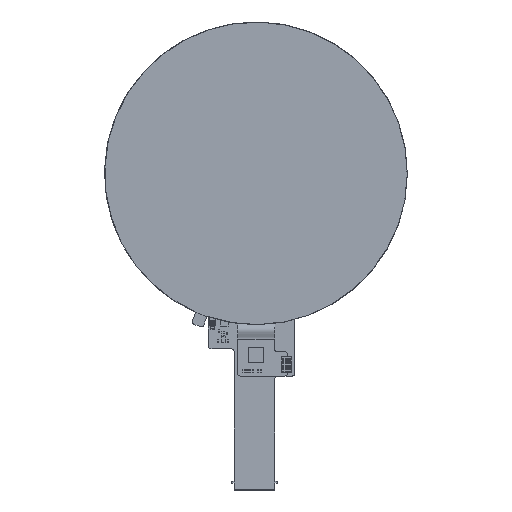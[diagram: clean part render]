
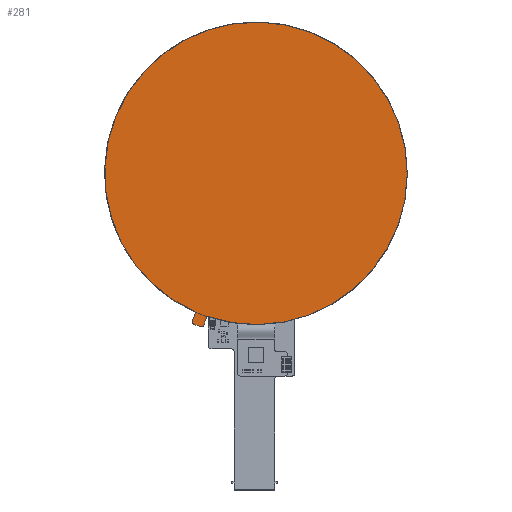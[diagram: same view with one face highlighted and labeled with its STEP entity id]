
A CAD part, top view. The second image highlights one B-rep face of the part: STEP entity #281.
In plain terms, the highlighted planar face has unit normal (0, 0, 1).
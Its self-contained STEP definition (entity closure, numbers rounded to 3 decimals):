
#90 = VERTEX_POINT('',#91);
#91 = CARTESIAN_POINT('',(-18.6,-54.356,3.23));
#97 = EDGE_CURVE('',#90,#98,#100,.T.);
#98 = VERTEX_POINT('',#99);
#99 = CARTESIAN_POINT('',(-19.901,-57.712,3.23));
#100 = LINE('',#101,#102);
#101 = CARTESIAN_POINT('',(-18.6,-54.356,3.23));
#102 = VECTOR('',#103,1.);
#103 = DIRECTION('',(-0.361,-0.932,0.));
#121 = VERTEX_POINT('',#122);
#122 = CARTESIAN_POINT('',(-21.195,-58.283,3.23));
#128 = EDGE_CURVE('',#98,#121,#129,.T.);
#129 = CIRCLE('',#130,1.);
#130 = AXIS2_PLACEMENT_3D('',#131,#132,#133);
#131 = CARTESIAN_POINT('',(-20.833,-57.351,3.23));
#132 = DIRECTION('',(-0.,-0.,-1.));
#133 = DIRECTION('',(0.,-1.,0.));
#187 = EDGE_CURVE('',#121,#188,#190,.T.);
#188 = VERTEX_POINT('',#189);
#189 = CARTESIAN_POINT('',(-23.619,-57.344,3.23));
#190 = LINE('',#191,#192);
#191 = CARTESIAN_POINT('',(-20.262,-58.645,3.23));
#192 = VECTOR('',#193,1.);
#193 = DIRECTION('',(-0.932,0.361,0.));
#211 = VERTEX_POINT('',#212);
#212 = CARTESIAN_POINT('',(-24.19,-56.05,3.23));
#218 = EDGE_CURVE('',#211,#219,#221,.T.);
#219 = VERTEX_POINT('',#220);
#220 = CARTESIAN_POINT('',(-22.889,-52.693,3.23));
#221 = LINE('',#222,#223);
#222 = CARTESIAN_POINT('',(-24.551,-56.982,3.23));
#223 = VECTOR('',#224,1.);
#224 = DIRECTION('',(0.361,0.932,0.));
#250 = EDGE_CURVE('',#211,#188,#251,.T.);
#251 = CIRCLE('',#252,1.);
#252 = AXIS2_PLACEMENT_3D('',#253,#254,#255);
#253 = CARTESIAN_POINT('',(-23.258,-56.411,3.23));
#254 = DIRECTION('',(-0.,0.,1.));
#255 = DIRECTION('',(0.,-1.,0.));
#281 = ADVANCED_FACE('',(#282),#296,.T.);
#282 = FACE_BOUND('',#283,.T.);
#283 = EDGE_LOOP('',(#284,#285,#292,#293,#294,#295));
#284 = ORIENTED_EDGE('',*,*,#97,.F.);
#285 = ORIENTED_EDGE('',*,*,#286,.T.);
#286 = EDGE_CURVE('',#90,#219,#287,.T.);
#287 = CIRCLE('',#288,57.45);
#288 = AXIS2_PLACEMENT_3D('',#289,#290,#291);
#289 = CARTESIAN_POINT('',(0.,0.,3.23));
#290 = DIRECTION('',(0.,0.,1.));
#291 = DIRECTION('',(1.,0.,0.));
#292 = ORIENTED_EDGE('',*,*,#218,.F.);
#293 = ORIENTED_EDGE('',*,*,#250,.T.);
#294 = ORIENTED_EDGE('',*,*,#187,.F.);
#295 = ORIENTED_EDGE('',*,*,#128,.F.);
#296 = PLANE('',#297);
#297 = AXIS2_PLACEMENT_3D('',#298,#299,#300);
#298 = CARTESIAN_POINT('',(-0.815,-2.103,3.23));
#299 = DIRECTION('',(0.,0.,1.));
#300 = DIRECTION('',(1.,0.,0.));
